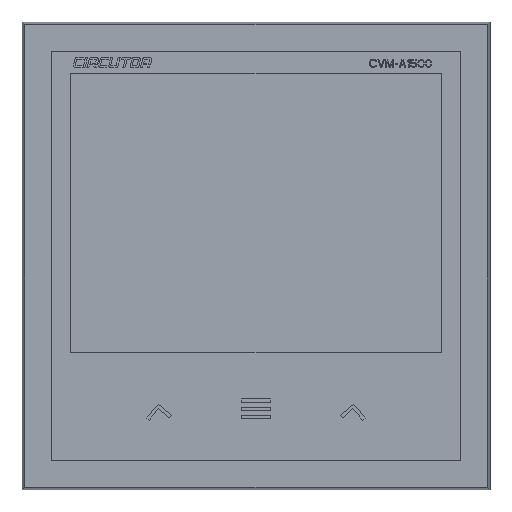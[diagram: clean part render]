
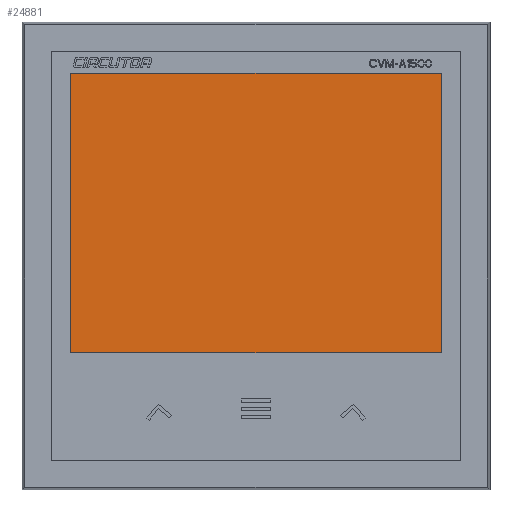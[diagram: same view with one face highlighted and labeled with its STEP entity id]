
A CAD part, top view. The second image highlights one B-rep face of the part: STEP entity #24881.
In plain terms, the highlighted planar face has unit normal (0, 0, 1).
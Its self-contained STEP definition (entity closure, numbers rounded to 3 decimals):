
#9248=DIRECTION('',(0.,-1.,0.));
#9249=VECTOR('',#9248,86.);
#9250=CARTESIAN_POINT('',(-57.,56.202,6.));
#9251=LINE('',#9250,#9249);
#9255=DIRECTION('',(-1.,0.,0.));
#9256=VECTOR('',#9255,114.);
#9257=CARTESIAN_POINT('',(57.,56.202,6.));
#9258=LINE('',#9257,#9256);
#9262=DIRECTION('',(0.,1.,0.));
#9263=VECTOR('',#9262,86.);
#9264=CARTESIAN_POINT('',(57.,-29.798,6.));
#9265=LINE('',#9264,#9263);
#9269=DIRECTION('',(1.,0.,0.));
#9270=VECTOR('',#9269,114.);
#9271=CARTESIAN_POINT('',(-57.,-29.798,6.));
#9272=LINE('',#9271,#9270);
#17464=CARTESIAN_POINT('',(-57.,56.202,6.));
#17465=CARTESIAN_POINT('',(-57.,-29.798,6.));
#17466=VERTEX_POINT('',#17464);
#17467=VERTEX_POINT('',#17465);
#17468=CARTESIAN_POINT('',(57.,-29.798,6.));
#17469=VERTEX_POINT('',#17468);
#17470=CARTESIAN_POINT('',(57.,56.202,6.));
#17471=VERTEX_POINT('',#17470);
#24870=CARTESIAN_POINT('',(0.,0.,6.));
#24871=DIRECTION('',(0.,0.,1.));
#24872=DIRECTION('',(1.,0.,0.));
#24873=AXIS2_PLACEMENT_3D('',#24870,#24871,#24872);
#24874=PLANE('',#24873);
#24875=ORIENTED_EDGE('',*,*,#24822,.F.);
#24876=ORIENTED_EDGE('',*,*,#24837,.F.);
#24877=ORIENTED_EDGE('',*,*,#24851,.F.);
#24878=ORIENTED_EDGE('',*,*,#24864,.F.);
#24879=EDGE_LOOP('',(#24875,#24876,#24877,#24878));
#24880=FACE_OUTER_BOUND('',#24879,.F.);
#24822=EDGE_CURVE('',#17466,#17467,#9251,.T.);
#24837=EDGE_CURVE('',#17471,#17466,#9258,.T.);
#24851=EDGE_CURVE('',#17469,#17471,#9265,.T.);
#24864=EDGE_CURVE('',#17467,#17469,#9272,.T.);
#24881=ADVANCED_FACE('',(#24880),#24874,.T.);
